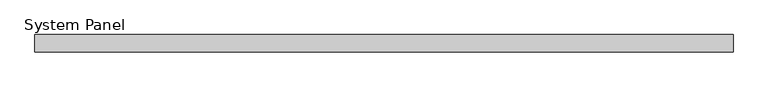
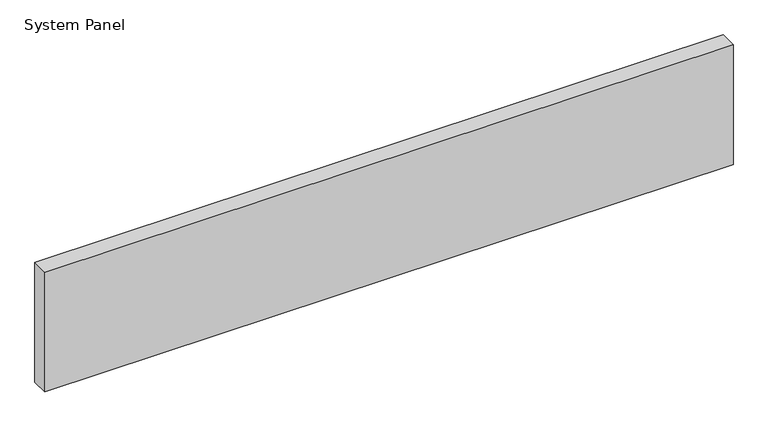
"""IFC4 building model written with IfcOpenShell, lengths in millimetres: plate geometry, System Panel : MetecnoPanel 150mm Horizontal - Plain Astro - PIR."""

import ifcopenshell
import ifcopenshell.guid

model = None  # the IFC model being written
_history = None  # IfcOwnerHistory: only IFC2X3 demands one
_inside = {}  # id of a spatial element -> (the spatial element, [elements in it])
_under = {}  # id of a project, library or spatial element -> (it, [spatial elements below it])
_declared = {}  # id of a project -> (the project, [libraries it declares])
_typed = {}  # id of a type object -> (the type object, [elements of that type])
_made_of = {}  # id of a material, layer set ... -> (it, [elements and type objects made of it])


def new_model(schema):
    """Start an empty IFC model of exactly this schema.

    Asked for "IFC4X3", IfcOpenShell would pick the latest addendum, in which some entities
    have other attributes; the version numbers below select the first issue.
    IFC2X3 requires an IfcOwnerHistory on every rooted entity: one is made here for all.
    """
    global model, _history
    if schema == "IFC4X3":
        model = ifcopenshell.file(schema_version=(4, 3, 0, 0))
    else:
        model = ifcopenshell.file(schema=schema)
    _inside.clear()
    _under.clear()
    _declared.clear()
    _typed.clear()
    _made_of.clear()
    _history = None
    if model.schema == "IFC2X3":
        org = make("IfcOrganization", Name="unknown")
        user = make(
            "IfcPersonAndOrganization",
            ThePerson=make("IfcPerson", FamilyName="unknown"),
            TheOrganization=org,
        )
        app = make(
            "IfcApplication",
            ApplicationDeveloper=org,
            Version="unknown",
            ApplicationFullName="unknown",
            ApplicationIdentifier="unknown",
        )
        _history = make(
            "IfcOwnerHistory",
            OwningUser=user,
            OwningApplication=app,
            ChangeAction="ADDED",
            CreationDate=0,
        )
    return model


def make(cls, **values):
    """One entity of the class cls with the attributes given. An attribute that is None is left unset."""
    return model.create_entity(
        cls, **{name: value for name, value in values.items() if value is not None}
    )


def rooted(cls, **values):
    """An entity with a GlobalId (a new one), such as an element, a storey or a relation."""
    return make(cls, GlobalId=ifcopenshell.guid.new(), OwnerHistory=_history, **values)


def si_unit(unit_type, name, prefix=None):
    """IfcSIUnit, for example si_unit("LENGTHUNIT", "METRE", prefix="MILLI")."""
    return make("IfcSIUnit", UnitType=unit_type, Prefix=prefix, Name=name)


def assignment(units):
    """IfcUnitAssignment: the units of a project."""
    return None if units is None else make("IfcUnitAssignment", Units=units)


def point(xyz):
    """IfcCartesianPoint."""
    return None if xyz is None else make("IfcCartesianPoint", Coordinates=xyz)


def direction(xyz):
    """IfcDirection."""
    return None if xyz is None else make("IfcDirection", DirectionRatios=xyz)


def frame(location, z_axis=None, x_axis=None):
    """IfcAxis2Placement3D, a coordinate frame: its origin and axes. An axis left out is left unset."""
    return make(
        "IfcAxis2Placement3D",
        Location=point(location),
        Axis=direction(z_axis),
        RefDirection=direction(x_axis),
    )


def origin():
    """The frame at (0, 0, 0) with its axes left unset."""
    return frame((0.0, 0.0, 0.0))


def origin_with_axes():
    """The frame at (0, 0, 0) with the z axis (0, 0, 1) and the x axis (1, 0, 0) written out."""
    return frame((0.0, 0.0, 0.0), z_axis=(0.0, 0.0, 1.0), x_axis=(1.0, 0.0, 0.0))


def place(relative_to, where):
    """IfcLocalPlacement: puts the frame where relative to a parent placement (None: the world)."""
    return make(
        "IfcLocalPlacement", PlacementRelTo=relative_to, RelativePlacement=where
    )


def context(
    kind, dimensions, precision=None, world=None, true_north=None, identifier=None
):
    """IfcGeometricRepresentationContext, for example the 3D "Model" context."""
    return make(
        "IfcGeometricRepresentationContext",
        ContextIdentifier=identifier,
        ContextType=kind,
        CoordinateSpaceDimension=dimensions,
        Precision=precision,
        WorldCoordinateSystem=world,
        TrueNorth=true_north,
    )


def project(units=None, contexts=None):
    """IfcProject with its units and contexts."""
    return rooted(
        "IfcProject",
        Name="project",
        RepresentationContexts=contexts,
        UnitsInContext=assignment(units),
    )


def spatial(cls, under=None, at=None, **own):
    """A site, building, storey or space (cls), placed at a placement, below another one or the project."""
    s = rooted(cls, ObjectPlacement=at, **own)
    if under is not None:
        _under.setdefault(under.id(), (under, []))[1].append(s)
    return s


def polyline(points):
    """IfcPolyline through the points."""
    return make("IfcPolyline", Points=[point(p) for p in points])


def outline(outer, holes=None, kind="AREA"):
    """IfcArbitraryClosedProfileDef: a profile drawn as a closed curve; with holes, ...WithVoids."""
    if holes is None:
        return make("IfcArbitraryClosedProfileDef", ProfileType=kind, OuterCurve=outer)
    return make(
        "IfcArbitraryProfileDefWithVoids",
        ProfileType=kind,
        OuterCurve=outer,
        InnerCurves=holes,
    )


def extrude(swept, where, along, depth):
    """IfcExtrudedAreaSolid: the profile swept, set in the frame where, extruded along a direction by depth."""
    return make(
        "IfcExtrudedAreaSolid",
        SweptArea=swept,
        Position=where,
        ExtrudedDirection=direction(along),
        Depth=depth,
    )


def shape(context_of_items, identifier, shape_type, items):
    """IfcShapeRepresentation: the items that make up one representation, for example the "Body"."""
    return make(
        "IfcShapeRepresentation",
        ContextOfItems=context_of_items,
        RepresentationIdentifier=identifier,
        RepresentationType=shape_type,
        Items=items,
    )


def source(mapping_origin, context_of_items, identifier, shape_type, items):
    """IfcRepresentationMap: a shape defined once, which mapped items show again and again."""
    return make(
        "IfcRepresentationMap",
        MappingOrigin=mapping_origin,
        MappedRepresentation=shape(context_of_items, identifier, shape_type, items),
    )


def transform(
    local_origin,
    x_axis=None,
    y_axis=None,
    z_axis=None,
    scale=None,
    scale2=None,
    scale3=None,
    uniform=True,
):
    """IfcCartesianTransformationOperator3D, or its non-uniform kind. x_axis, y_axis, z_axis: its Axis1, 2, 3."""
    if uniform:
        return make(
            "IfcCartesianTransformationOperator3D",
            Axis1=direction(x_axis),
            Axis2=direction(y_axis),
            LocalOrigin=point(local_origin),
            Scale=scale,
            Axis3=direction(z_axis),
        )
    return make(
        "IfcCartesianTransformationOperator3DnonUniform",
        Axis1=direction(x_axis),
        Axis2=direction(y_axis),
        LocalOrigin=point(local_origin),
        Scale=scale,
        Axis3=direction(z_axis),
        Scale2=scale2,
        Scale3=scale3,
    )


def mapped(mapping_source, mapping_target):
    """IfcMappedItem: shows the shape of a source again, moved by a transform."""
    return make(
        "IfcMappedItem", MappingSource=mapping_source, MappingTarget=mapping_target
    )


def made_of(thing, what):
    """Note that an element or type object is made of a material, layer set ...; save() writes the relation."""
    if what is not None:
        _made_of.setdefault(what.id(), (what, []))[1].append(thing)
    return thing


def element(
    cls,
    number,
    at=None,
    inside=None,
    cuts=None,
    type_object=None,
    material=None,
    context=None,
    identifier="Body",
    shape_type=None,
    held_by="IfcProductDefinitionShape",
    body=None,
    shapes=None,
    **own,
):
    """One element of the class cls, such as IfcWall. Its Tag is "e" and its number.

    at: its placement. inside: the storey or other place that contains it. cuts: it is an
    opening in that element (IfcRelVoidsElement). A single representation is given by context,
    identifier, shape_type and body (its items); several are given by shapes. held_by: the class
    of the entity that holds the representations. save() writes the other relations.
    """
    e = rooted(cls, Tag="e%d" % number, ObjectPlacement=at, **own)
    if body is not None:
        shapes = [shape(context, identifier, shape_type, body)]
    if shapes is not None:
        e.Representation = make(held_by, Representations=shapes)
    if inside is not None:
        _inside.setdefault(inside.id(), (inside, []))[1].append(e)
    if cuts is not None:
        rooted(
            "IfcRelVoidsElement", RelatingBuildingElement=cuts, RelatedOpeningElement=e
        )
    if type_object is not None:
        _typed.setdefault(type_object.id(), (type_object, []))[1].append(e)
    return made_of(e, material)


def aggregate(whole, parts):
    """IfcRelAggregates: a whole, such as a stair, and the parts it consists of."""
    return rooted("IfcRelAggregates", RelatingObject=whole, RelatedObjects=parts)


def save(model, path):
    """Write the relations noted so far, then the file.

    IfcRelAggregates (storeys below a building ...), IfcRelContainedInSpatialStructure (elements
    in a storey), IfcRelDefinesByType, IfcRelAssociatesMaterial and IfcRelDeclares: one each for
    every whole, place, type object, material and project.
    """
    for whole, parts in _under.values():
        aggregate(whole, parts)
    for where, things in _inside.values():
        rooted(
            "IfcRelContainedInSpatialStructure",
            RelatedElements=things,
            RelatingStructure=where,
        )
    for kind, things in _typed.values():
        rooted("IfcRelDefinesByType", RelatedObjects=things, RelatingType=kind)
    for what, things in _made_of.values():
        rooted("IfcRelAssociatesMaterial", RelatedObjects=things, RelatingMaterial=what)
    for by, libraries in _declared.values():
        rooted("IfcRelDeclares", RelatingContext=by, RelatedDefinitions=libraries)
    model.write(path)


def system_panel_42c71903(model_context):
    return source(origin(), model_context, "Body", "SweptSolid", [
        extrude(outline(polyline([(2990.0, -150.0), (-2990.0, -150.0), (-2990.0, 0.0), (2990.0, 0.0), (2990.0, -150.0)])), origin_with_axes(), (0.0, 0.0, 1.0), 1100.0),
    ])


if __name__ == "__main__":
    model = new_model("IFC4")
    model_context = context("Model", 3, world=origin())
    ifc_project = project(units=[si_unit("LENGTHUNIT", "METRE", prefix="MILLI")], contexts=[model_context])
    site = spatial("IfcSite", under=ifc_project)
    building = spatial("IfcBuilding", under=site)
    placement = place(None, origin())
    system_panel_shape = system_panel_42c71903(model_context)
    element("IfcPlate", 1, ObjectType="System Panel : MetecnoPanel 150mm Horizontal - Plain Astro - PIR", at=placement, inside=building, context=model_context, shape_type="MappedRepresentation", body=[
        mapped(system_panel_shape, transform((0.0, 0.0, 0.0), x_axis=(1.0, 0.0, 0.0), y_axis=(0.0, 1.0, 0.0), z_axis=(0.0, 0.0, 1.0))),
    ])
    save(model, "model.ifc")
